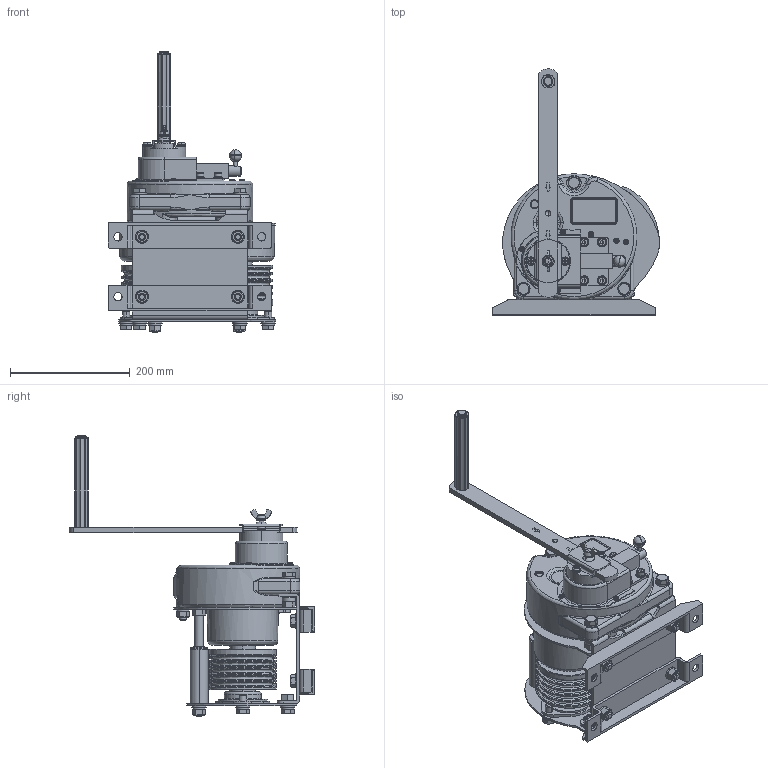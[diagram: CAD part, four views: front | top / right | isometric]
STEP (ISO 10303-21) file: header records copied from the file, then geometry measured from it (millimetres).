
FILE_DESCRIPTION( (''), '2;1');
FILE_NAME ('ME-10-L.stp','2023-09-20T16:37:00',(''),(''),'spGate 19.8.2 (****-****-****-****)','','');
FILE_SCHEMA (('AUTOMOTIVE_DESIGN'));
Length unit declared in the file: millimetre
Products named in the file (6): Assembly; ME-10-L-prt0; ME-10-L-prt1; ME-10-L-prt2; ME-10-L-prt3; ME-10-L-prt4
Assembly tree (5 placements, depth 2):
  Assembly
    ME-10-L-prt0
    ME-10-L-prt1
    ME-10-L-prt2
    ME-10-L-prt3
    ME-10-L-prt4
Bounding box: 279 x 410.43 x 469.2 mm (x, y, z)
Volume: 6895447.5 mm3; surface area: 735671.9 mm2
Topology: 5 solids, 5 shells, 2132 faces, 5316 edges, 3306 vertices
Faces by surface type: plane 1058, cylinder 630, bspline 386, sphere 58
Entity records: 112806 total; most frequent: CARTESIAN_POINT 21238, ORIENTED_EDGE 10564, DIRECTION 10008, COLOUR_RGB 7419, PRESENTATION_STYLE_ASSIGNMENT 7419, STYLED_ITEM 7419, EDGE_CURVE 5282, DRAUGHTING_PRE_DEFINED_CURVE_FONT 5282
